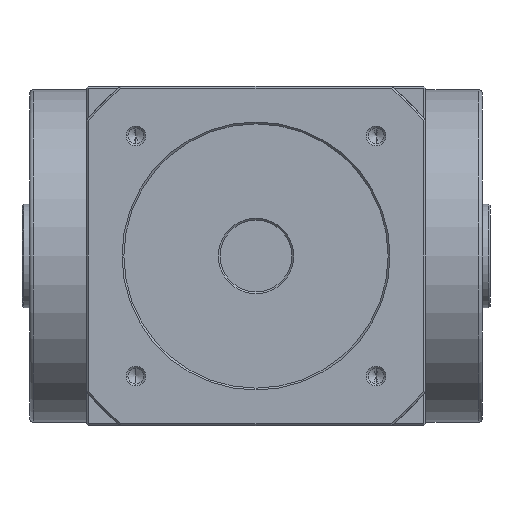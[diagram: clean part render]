
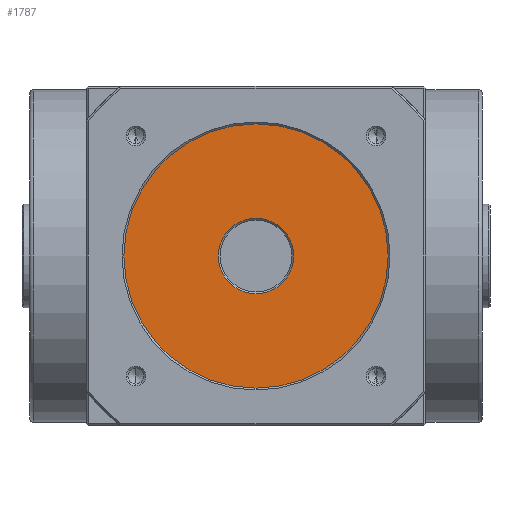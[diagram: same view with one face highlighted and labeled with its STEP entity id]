
A CAD part, front view. The second image highlights one B-rep face of the part: STEP entity #1787.
In plain terms, the highlighted planar face has unit normal (0, -1, 0).
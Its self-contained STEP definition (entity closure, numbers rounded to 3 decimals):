
#72 = CIRCLE ( 'NONE', #5329, 35. ) ;
#1091 = AXIS2_PLACEMENT_3D ( 'NONE', #6649, #8074, #7378 ) ;
#1145 = DIRECTION ( 'NONE',  ( 0., 1., 0. ) ) ;
#1284 = ORIENTED_EDGE ( 'NONE', *, *, #8092, .T. ) ;
#1387 = PLANE ( 'NONE',  #1091 ) ;
#1787 = ADVANCED_FACE ( 'NONE', ( #8812, #5251 ), #1387, .T. ) ;
#1869 = CARTESIAN_POINT ( 'NONE',  ( 0., -176.5, 0. ) ) ;
#1917 = EDGE_LOOP ( 'NONE', ( #3773, #2540 ) ) ;
#2047 = CARTESIAN_POINT ( 'NONE',  ( 0., -176.5, -10. ) ) ;
#2057 = CIRCLE ( 'NONE', #5703, 10. ) ;
#2525 = ORIENTED_EDGE ( 'NONE', *, *, #4506, .T. ) ;
#2540 = ORIENTED_EDGE ( 'NONE', *, *, #8886, .T. ) ;
#2770 = CARTESIAN_POINT ( 'NONE',  ( 0., -176.5, 0. ) ) ;
#2854 = DIRECTION ( 'NONE',  ( 0., 0., -1. ) ) ;
#3773 = ORIENTED_EDGE ( 'NONE', *, *, #4309, .T. ) ;
#4309 = EDGE_CURVE ( 'NONE', #8404, #7894, #72, .T. ) ;
#4506 = EDGE_CURVE ( 'NONE', #7600, #8235, #2057, .T. ) ;
#4527 = CARTESIAN_POINT ( 'NONE',  ( 0., -176.5, 10. ) ) ;
#4534 = DIRECTION ( 'NONE',  ( 0., 0., -1. ) ) ;
#5251 = FACE_OUTER_BOUND ( 'NONE', #1917, .T. ) ;
#5329 = AXIS2_PLACEMENT_3D ( 'NONE', #8442, #9043, #4534 ) ;
#5703 = AXIS2_PLACEMENT_3D ( 'NONE', #8149, #7395, #2854 ) ;
#5762 = DIRECTION ( 'NONE',  ( 0., 0., -1. ) ) ;
#5998 = CIRCLE ( 'NONE', #7644, 35. ) ;
#6649 = CARTESIAN_POINT ( 'NONE',  ( 0., -176.5, 0. ) ) ;
#6892 = CIRCLE ( 'NONE', #7387, 10. ) ;
#7042 = EDGE_LOOP ( 'NONE', ( #2525, #1284 ) ) ;
#7378 = DIRECTION ( 'NONE',  ( 0., 0., -1. ) ) ;
#7387 = AXIS2_PLACEMENT_3D ( 'NONE', #1869, #1145, #5762 ) ;
#7395 = DIRECTION ( 'NONE',  ( 0., 1., 0. ) ) ;
#7600 = VERTEX_POINT ( 'NONE', #2047 ) ;
#7644 = AXIS2_PLACEMENT_3D ( 'NONE', #2770, #7998, #9565 ) ;
#7891 = CARTESIAN_POINT ( 'NONE',  ( 0., -176.5, 35. ) ) ;
#7894 = VERTEX_POINT ( 'NONE', #7891 ) ;
#7998 = DIRECTION ( 'NONE',  ( 0., -1., 0. ) ) ;
#8074 = DIRECTION ( 'NONE',  ( 0., -1., 0. ) ) ;
#8092 = EDGE_CURVE ( 'NONE', #8235, #7600, #6892, .T. ) ;
#8149 = CARTESIAN_POINT ( 'NONE',  ( 0., -176.5, 0. ) ) ;
#8235 = VERTEX_POINT ( 'NONE', #4527 ) ;
#8404 = VERTEX_POINT ( 'NONE', #9169 ) ;
#8442 = CARTESIAN_POINT ( 'NONE',  ( 0., -176.5, 0. ) ) ;
#8812 = FACE_BOUND ( 'NONE', #7042, .T. ) ;
#8886 = EDGE_CURVE ( 'NONE', #7894, #8404, #5998, .T. ) ;
#9043 = DIRECTION ( 'NONE',  ( 0., -1., 0. ) ) ;
#9169 = CARTESIAN_POINT ( 'NONE',  ( 0., -176.5, -35. ) ) ;
#9565 = DIRECTION ( 'NONE',  ( 0., 0., -1. ) ) ;
